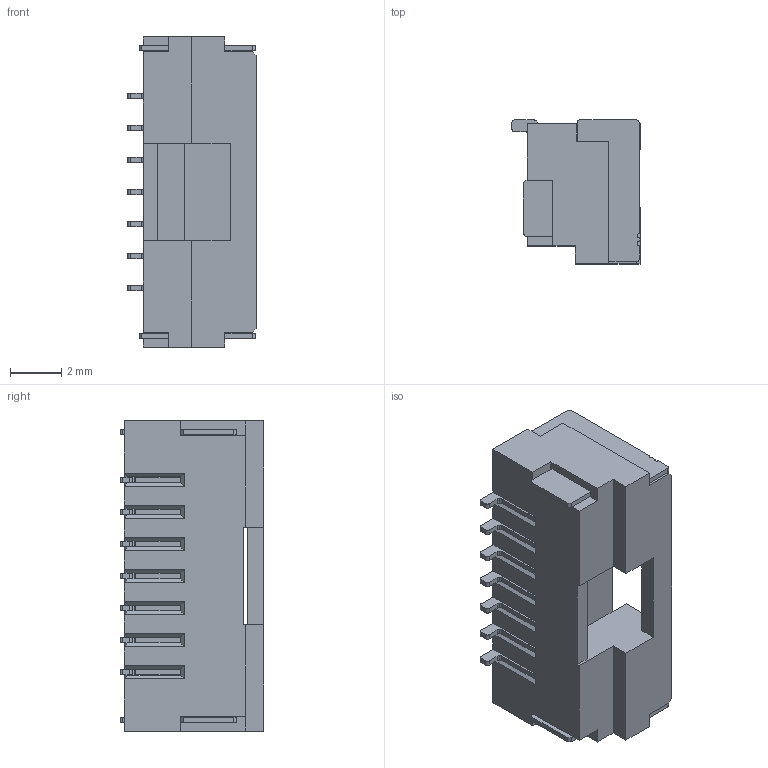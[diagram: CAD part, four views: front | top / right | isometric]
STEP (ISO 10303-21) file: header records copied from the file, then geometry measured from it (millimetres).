
FILE_DESCRIPTION (( 'STEP AP203' ), '1' );
FILE_NAME ('HC-12504-7PWT-X-05（1.25 单排 卧贴-HCTL）.STEP', '2024-08-05T01:57:39', ( '' ), ( '' ), 'SwSTEP 2.0', 'SolidWorks 2022', '' );
FILE_SCHEMA (( 'CONFIG_CONTROL_DESIGN' ));
Length unit declared in the file: millimetre
Products named in the file (1): HC-12504-7PWT-X-05（1.25 单排 卧贴-HCTL）
Bounding box: 5 x 5.6 x 12.1 mm (x, y, z)
Volume: 182.9 mm3; surface area: 596.3 mm2
Topology: 1 solids, 1 shells, 516 faces, 1595 edges, 1016 vertices
Faces by surface type: plane 427, cylinder 89
Entity records: 17590 total; most frequent: ORIENTED_EDGE 3190, CARTESIAN_POINT 3128, DIRECTION 2807, EDGE_CURVE 1595, VECTOR 1417, LINE 1417, VERTEX_POINT 1016, AXIS2_PLACEMENT_3D 695
